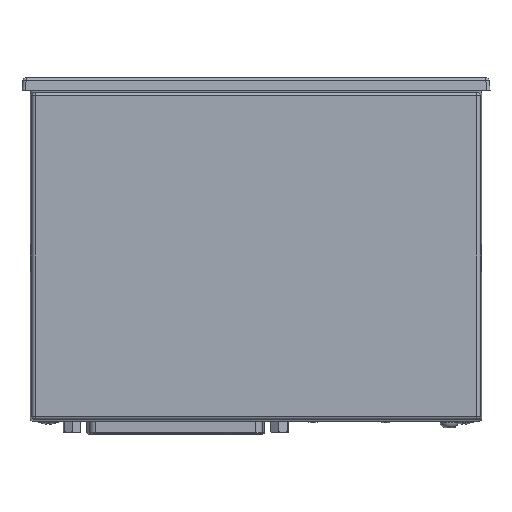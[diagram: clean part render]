
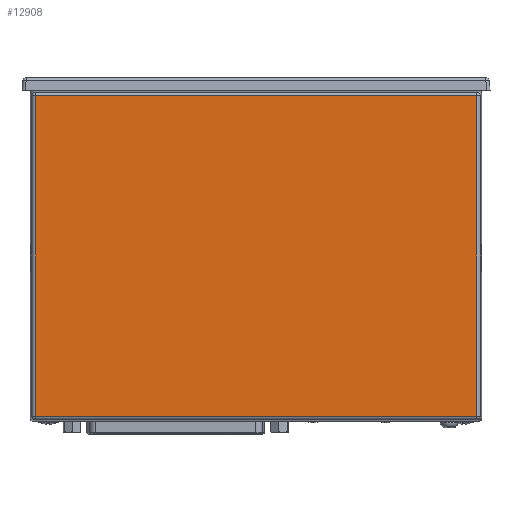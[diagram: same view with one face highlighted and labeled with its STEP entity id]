
A CAD part, front view. The second image highlights one B-rep face of the part: STEP entity #12908.
In plain terms, the highlighted planar face has unit normal (0, -1, 0).
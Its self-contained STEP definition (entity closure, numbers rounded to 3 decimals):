
#1099 = DIRECTION ( 'NONE',  ( 1., 0., 0. ) ) ;
#1950 = VECTOR ( 'NONE', #59700, 1000. ) ;
#2809 = EDGE_CURVE ( 'NONE', #63890, #44123, #41482, .T. ) ;
#3586 = CARTESIAN_POINT ( 'NONE',  ( 67.471, -21.5, -0.612 ) ) ;
#5249 = VECTOR ( 'NONE', #1099, 1000. ) ;
#7855 = ORIENTED_EDGE ( 'NONE', *, *, #36575, .T. ) ;
#9030 = FACE_OUTER_BOUND ( 'NONE', #30434, .T. ) ;
#9815 = LINE ( 'NONE', #3586, #1950 ) ;
#9866 = CARTESIAN_POINT ( 'NONE',  ( 67.471, -21.5, -99.471 ) ) ;
#11592 = CARTESIAN_POINT ( 'NONE',  ( 68.388, -21.5, -99.471 ) ) ;
#12408 = EDGE_CURVE ( 'NONE', #27103, #49171, #26969, .T. ) ;
#12908 = ADVANCED_FACE ( 'NONE', ( #9030 ), #24786, .T. ) ;
#13857 = CARTESIAN_POINT ( 'NONE',  ( -67.471, -21.5, -100.388 ) ) ;
#15328 = VECTOR ( 'NONE', #28503, 1000. ) ;
#18336 = CARTESIAN_POINT ( 'NONE',  ( 67.471, -21.5, -1.529 ) ) ;
#19755 = DIRECTION ( 'NONE',  ( 0., 0., -1. ) ) ;
#24786 = PLANE ( 'NONE',  #35337 ) ;
#25954 = CARTESIAN_POINT ( 'NONE',  ( -67.471, -21.5, -99.471 ) ) ;
#26969 = LINE ( 'NONE', #56821, #15328 ) ;
#27103 = VERTEX_POINT ( 'NONE', #18336 ) ;
#28106 = CARTESIAN_POINT ( 'NONE',  ( -67.471, -21.5, -1.529 ) ) ;
#28503 = DIRECTION ( 'NONE',  ( -1., 0., 0. ) ) ;
#28828 = ORIENTED_EDGE ( 'NONE', *, *, #35808, .T. ) ;
#30434 = EDGE_LOOP ( 'NONE', ( #28828, #48918, #7855, #31177 ) ) ;
#31177 = ORIENTED_EDGE ( 'NONE', *, *, #2809, .T. ) ;
#34539 = LINE ( 'NONE', #13857, #42846 ) ;
#35337 = AXIS2_PLACEMENT_3D ( 'NONE', #53350, #43834, #44802 ) ;
#35808 = EDGE_CURVE ( 'NONE', #44123, #27103, #9815, .T. ) ;
#36575 = EDGE_CURVE ( 'NONE', #49171, #63890, #34539, .T. ) ;
#41482 = LINE ( 'NONE', #11592, #5249 ) ;
#42846 = VECTOR ( 'NONE', #19755, 1000. ) ;
#43834 = DIRECTION ( 'NONE',  ( 0., -1., 0. ) ) ;
#44123 = VERTEX_POINT ( 'NONE', #9866 ) ;
#44802 = DIRECTION ( 'NONE',  ( 0., 0., -1. ) ) ;
#48918 = ORIENTED_EDGE ( 'NONE', *, *, #12408, .T. ) ;
#49171 = VERTEX_POINT ( 'NONE', #28106 ) ;
#53350 = CARTESIAN_POINT ( 'NONE',  ( 0., -21.5, 0. ) ) ;
#56821 = CARTESIAN_POINT ( 'NONE',  ( -68.388, -21.5, -1.529 ) ) ;
#59700 = DIRECTION ( 'NONE',  ( 0., 0., 1. ) ) ;
#63890 = VERTEX_POINT ( 'NONE', #25954 ) ;
